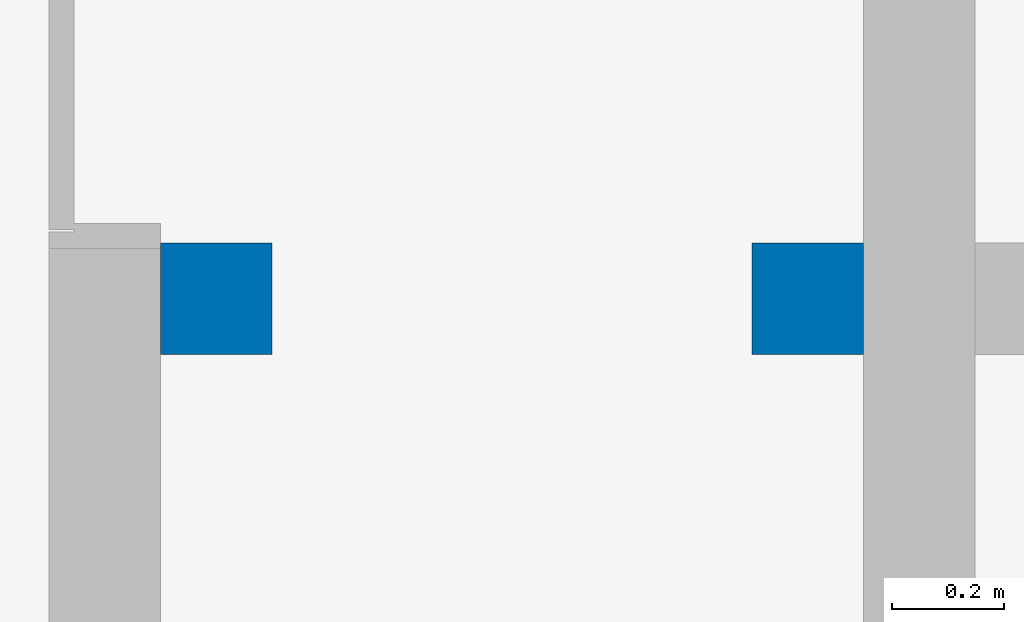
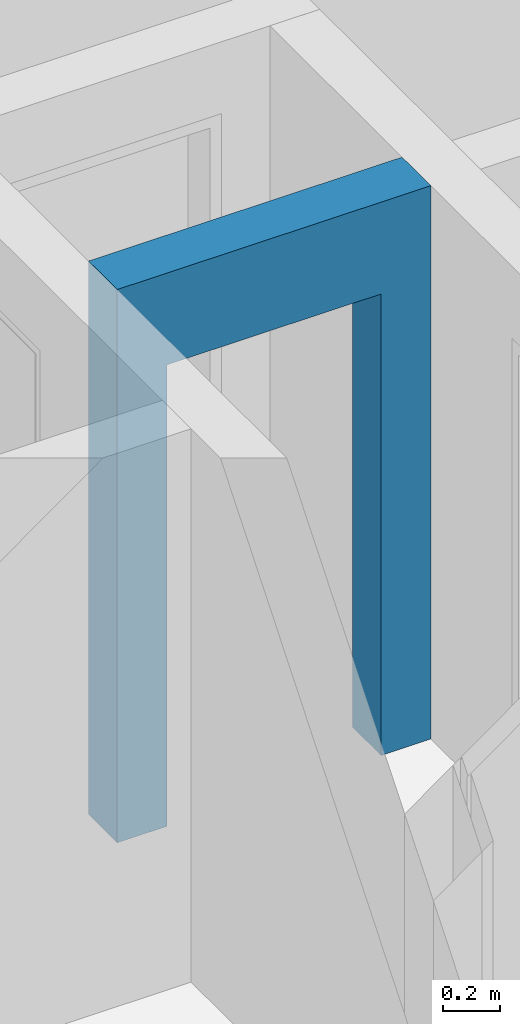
# One storey, part 11 of 22: 1 wall, 2 openings.
"""IFC2X3 building model written with IfcOpenShell, lengths in metres."""

import ifcopenshell
import ifcopenshell.guid

model = None  # the IFC model being written
_history = None  # IfcOwnerHistory: only IFC2X3 demands one
_inside = {}  # id of a spatial element -> (the spatial element, [elements in it])
_under = {}  # id of a project, library or spatial element -> (it, [spatial elements below it])
_declared = {}  # id of a project -> (the project, [libraries it declares])
_typed = {}  # id of a type object -> (the type object, [elements of that type])
_made_of = {}  # id of a material, layer set ... -> (it, [elements and type objects made of it])


def new_model(schema):
    """Start an empty IFC model of exactly this schema.

    Asked for "IFC4X3", IfcOpenShell would pick the latest addendum, in which some entities
    have other attributes; the version numbers below select the first issue.
    IFC2X3 requires an IfcOwnerHistory on every rooted entity: one is made here for all.
    """
    global model, _history
    if schema == "IFC4X3":
        model = ifcopenshell.file(schema_version=(4, 3, 0, 0))
    else:
        model = ifcopenshell.file(schema=schema)
    _inside.clear()
    _under.clear()
    _declared.clear()
    _typed.clear()
    _made_of.clear()
    _history = None
    if model.schema == "IFC2X3":
        org = make("IfcOrganization", Name="unknown")
        user = make(
            "IfcPersonAndOrganization",
            ThePerson=make("IfcPerson", FamilyName="unknown"),
            TheOrganization=org,
        )
        app = make(
            "IfcApplication",
            ApplicationDeveloper=org,
            Version="unknown",
            ApplicationFullName="unknown",
            ApplicationIdentifier="unknown",
        )
        _history = make(
            "IfcOwnerHistory",
            OwningUser=user,
            OwningApplication=app,
            ChangeAction="ADDED",
            CreationDate=0,
        )
    return model


def make(cls, **values):
    """One entity of the class cls with the attributes given. An attribute that is None is left unset."""
    return model.create_entity(
        cls, **{name: value for name, value in values.items() if value is not None}
    )


def entity(cls, *values):
    """Any entity or typed value of the class cls, its attributes in the order of the schema. None: left unset."""
    e = model.create_entity(cls)
    for i, value in enumerate(values):
        if value is not None:
            e[i] = value
    return e


def rooted(cls, **values):
    """An entity with a GlobalId (a new one), such as an element, a storey or a relation."""
    return make(cls, GlobalId=ifcopenshell.guid.new(), OwnerHistory=_history, **values)


def si_unit(unit_type, name, prefix=None):
    """IfcSIUnit, for example si_unit("LENGTHUNIT", "METRE", prefix="MILLI")."""
    return make("IfcSIUnit", UnitType=unit_type, Prefix=prefix, Name=name)


def converted_unit(unit_type, name, factor, base, dimensions=None, offset=None):
    """IfcConversionBasedUnit, such as the inch: factor (a typed value) times the base unit."""
    return make(
        "IfcConversionBasedUnit"
        if offset is None
        else "IfcConversionBasedUnitWithOffset",
        ConversionOffset=offset,
        Dimensions=None
        if dimensions is None
        else entity("IfcDimensionalExponents", *dimensions),
        UnitType=unit_type,
        Name=name,
        ConversionFactor=make(
            "IfcMeasureWithUnit", ValueComponent=factor, UnitComponent=base
        ),
    )


def derived_unit(unit_type, elements):
    """IfcDerivedUnit: a product of units, each with its exponent."""
    return make(
        "IfcDerivedUnit",
        Elements=[
            make("IfcDerivedUnitElement", Unit=unit, Exponent=power)
            for unit, power in elements
        ],
        UnitType=unit_type,
    )


def assignment(units):
    """IfcUnitAssignment: the units of a project."""
    return None if units is None else make("IfcUnitAssignment", Units=units)


def point(xyz):
    """IfcCartesianPoint."""
    return None if xyz is None else make("IfcCartesianPoint", Coordinates=xyz)


def direction(xyz):
    """IfcDirection."""
    return None if xyz is None else make("IfcDirection", DirectionRatios=xyz)


def frame(location, z_axis=None, x_axis=None):
    """IfcAxis2Placement3D, a coordinate frame: its origin and axes. An axis left out is left unset."""
    return make(
        "IfcAxis2Placement3D",
        Location=point(location),
        Axis=direction(z_axis),
        RefDirection=direction(x_axis),
    )


def frame_2d(location, x_axis=None):
    """IfcAxis2Placement2D, a coordinate frame in the plane: its origin and x axis."""
    return make(
        "IfcAxis2Placement2D", Location=point(location), RefDirection=direction(x_axis)
    )


def origin():
    """The frame at (0, 0, 0) with its axes left unset."""
    return frame((0.0, 0.0, 0.0))


def origin_2d_with_axis():
    """The frame at (0, 0) in the plane with the x axis (1, 0) written out."""
    return frame_2d((0.0, 0.0), x_axis=(1.0, 0.0))


def place(relative_to, where):
    """IfcLocalPlacement: puts the frame where relative to a parent placement (None: the world)."""
    return make(
        "IfcLocalPlacement", PlacementRelTo=relative_to, RelativePlacement=where
    )


def context(
    kind, dimensions, precision=None, world=None, true_north=None, identifier=None
):
    """IfcGeometricRepresentationContext, for example the 3D "Model" context."""
    return make(
        "IfcGeometricRepresentationContext",
        ContextIdentifier=identifier,
        ContextType=kind,
        CoordinateSpaceDimension=dimensions,
        Precision=precision,
        WorldCoordinateSystem=world,
        TrueNorth=true_north,
    )


def subcontext(parent, identifier, kind, view, scale=None):
    """IfcGeometricRepresentationSubContext, for example "Body" below "Model"."""
    return make(
        "IfcGeometricRepresentationSubContext",
        ContextIdentifier=identifier,
        ContextType=kind,
        ParentContext=parent,
        TargetScale=scale,
        TargetView=view,
    )


def project(units=None, contexts=None):
    """IfcProject with its units and contexts."""
    return rooted(
        "IfcProject",
        Name="project",
        RepresentationContexts=contexts,
        UnitsInContext=assignment(units),
    )


def spatial(cls, under=None, at=None, **own):
    """A site, building, storey or space (cls), placed at a placement, below another one or the project."""
    s = rooted(cls, ObjectPlacement=at, **own)
    if under is not None:
        _under.setdefault(under.id(), (under, []))[1].append(s)
    return s


def polyline(points):
    """IfcPolyline through the points."""
    return make("IfcPolyline", Points=[point(p) for p in points])


def profile(cls, at=None, kind="AREA", **sizes):
    """A parametric profile (cls). Its sizes go by their IFC names, for example OverallWidth=200.0."""
    return make(cls, ProfileType=kind, Position=at, **sizes)


def rectangle(**sizes):
    """IfcRectangleProfileDef."""
    return profile("IfcRectangleProfileDef", **sizes)


def extrude(swept, where, along, depth):
    """IfcExtrudedAreaSolid: the profile swept, set in the frame where, extruded along a direction by depth."""
    return make(
        "IfcExtrudedAreaSolid",
        SweptArea=swept,
        Position=where,
        ExtrudedDirection=direction(along),
        Depth=depth,
    )


def clip(a, b, op="DIFFERENCE"):
    """IfcBooleanClippingResult: the solid a cut by the half space b."""
    return make(
        "IfcBooleanClippingResult", Operator=op, FirstOperand=a, SecondOperand=b
    )


def bounded_halfspace(plane, agree, where, boundary):
    """IfcPolygonalBoundedHalfSpace: a half space limited to a polygon's prism."""
    return make(
        "IfcPolygonalBoundedHalfSpace",
        BaseSurface=make("IfcPlane", Position=plane),
        AgreementFlag=agree,
        Position=where,
        PolygonalBoundary=boundary,
    )


def shape(context_of_items, identifier, shape_type, items):
    """IfcShapeRepresentation: the items that make up one representation, for example the "Body"."""
    return make(
        "IfcShapeRepresentation",
        ContextOfItems=context_of_items,
        RepresentationIdentifier=identifier,
        RepresentationType=shape_type,
        Items=items,
    )


def material(Name=None, Category=None):
    """IfcMaterial."""
    return make("IfcMaterial", Name=Name, Category=Category)


def layer(
    of_material, thickness, ventilated=None, Name=None, Category=None, Priority=None
):
    """IfcMaterialLayer: one layer of a wall or slab, of a material (None: an air gap)."""
    return make(
        "IfcMaterialLayer",
        Material=of_material,
        LayerThickness=thickness,
        IsVentilated=ventilated,
        Name=Name,
        Category=Category,
        Priority=Priority,
    )


def layer_set(layers, Name=None):
    """IfcMaterialLayerSet."""
    return make("IfcMaterialLayerSet", MaterialLayers=layers, LayerSetName=Name)


def layer_usage(for_layer_set, set_direction, sense, offset, extent=None):
    """IfcMaterialLayerSetUsage: how a layer set lies in its element."""
    return make(
        "IfcMaterialLayerSetUsage",
        ForLayerSet=for_layer_set,
        LayerSetDirection=set_direction,
        DirectionSense=sense,
        OffsetFromReferenceLine=offset,
        ReferenceExtent=extent,
    )


def made_of(thing, what):
    """Note that an element or type object is made of a material, layer set ...; save() writes the relation."""
    if what is not None:
        _made_of.setdefault(what.id(), (what, []))[1].append(thing)
    return thing


def type_object(cls, material=None, **own):
    """A type object (cls), such as IfcWallType, which elements share."""
    return made_of(rooted(cls, **own), material)


def element(
    cls,
    number,
    at=None,
    inside=None,
    cuts=None,
    type_object=None,
    material=None,
    context=None,
    identifier="Body",
    shape_type=None,
    held_by="IfcProductDefinitionShape",
    body=None,
    shapes=None,
    **own,
):
    """One element of the class cls, such as IfcWall. Its Tag is "e" and its number.

    at: its placement. inside: the storey or other place that contains it. cuts: it is an
    opening in that element (IfcRelVoidsElement). A single representation is given by context,
    identifier, shape_type and body (its items); several are given by shapes. held_by: the class
    of the entity that holds the representations. save() writes the other relations.
    """
    e = rooted(cls, Tag="e%d" % number, ObjectPlacement=at, **own)
    if body is not None:
        shapes = [shape(context, identifier, shape_type, body)]
    if shapes is not None:
        e.Representation = make(held_by, Representations=shapes)
    if inside is not None:
        _inside.setdefault(inside.id(), (inside, []))[1].append(e)
    if cuts is not None:
        rooted(
            "IfcRelVoidsElement", RelatingBuildingElement=cuts, RelatedOpeningElement=e
        )
    if type_object is not None:
        _typed.setdefault(type_object.id(), (type_object, []))[1].append(e)
    return made_of(e, material)


def aggregate(whole, parts):
    """IfcRelAggregates: a whole, such as a stair, and the parts it consists of."""
    return rooted("IfcRelAggregates", RelatingObject=whole, RelatedObjects=parts)


def save(model, path):
    """Write the relations noted so far, then the file.

    IfcRelAggregates (storeys below a building ...), IfcRelContainedInSpatialStructure (elements
    in a storey), IfcRelDefinesByType, IfcRelAssociatesMaterial and IfcRelDeclares: one each for
    every whole, place, type object, material and project.
    """
    for whole, parts in _under.values():
        aggregate(whole, parts)
    for where, things in _inside.values():
        rooted(
            "IfcRelContainedInSpatialStructure",
            RelatedElements=things,
            RelatingStructure=where,
        )
    for kind, things in _typed.values():
        rooted("IfcRelDefinesByType", RelatedObjects=things, RelatingType=kind)
    for what, things in _made_of.values():
        rooted("IfcRelAssociatesMaterial", RelatedObjects=things, RelatingMaterial=what)
    for by, libraries in _declared.values():
        rooted("IfcRelDeclares", RelatingContext=by, RelatedDefinitions=libraries)
    model.write(path)


model = new_model("IFC2X3")

# Units and contexts
model_context = context("Model", 3, precision=1e-05, world=origin(), true_north=direction((6.123233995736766e-17, 1.0)))
body_context = subcontext(model_context, "Body", "Model", "MODEL_VIEW")
ifc_project = project(units=[si_unit("LENGTHUNIT", "METRE"), si_unit("AREAUNIT", "SQUARE_METRE"), si_unit("VOLUMEUNIT", "CUBIC_METRE"), si_unit("POWERUNIT", "WATT"), derived_unit("USERDEFINED", [(si_unit("MASSUNIT", "GRAM", prefix="KILO"), 1), (si_unit("TIMEUNIT", "SECOND"), -3)]), derived_unit("THERMALRESISTANCEUNIT", [(si_unit("MASSUNIT", "GRAM", prefix="KILO"), -1), (si_unit("TIMEUNIT", "SECOND"), 3), (si_unit("THERMODYNAMICTEMPERATUREUNIT", "KELVIN"), 1)]), derived_unit("USERDEFINED", [(si_unit("MASSUNIT", "GRAM", prefix="KILO"), 1), (si_unit("TIMEUNIT", "SECOND"), -2), (si_unit("THERMODYNAMICTEMPERATUREUNIT", "KELVIN"), -1)]), derived_unit("THERMALTRANSMITTANCEUNIT", [(si_unit("MASSUNIT", "GRAM", prefix="KILO"), 1), (si_unit("TIMEUNIT", "SECOND"), -3), (si_unit("THERMODYNAMICTEMPERATUREUNIT", "KELVIN"), -1)]), converted_unit("PLANEANGLEUNIT", "DEGREE", entity("IfcPlaneAngleMeasure", 0.017453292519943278), si_unit("PLANEANGLEUNIT", "RADIAN"), dimensions=[0, 0, 0, 0, 0, 0, 0]), derived_unit("MOMENTOFINERTIAUNIT", [(si_unit("LENGTHUNIT", "METRE"), 4)])], contexts=[model_context])

# Site, building, storey
site_placement = place(None, origin())
site = spatial("IfcSite", under=ifc_project, at=site_placement, Name="Default", CompositionType="ELEMENT")
building_placement = place(site_placement, origin())
building = spatial("IfcBuilding", under=site, at=building_placement, CompositionType="ELEMENT")
storey_placement = place(building_placement, origin())
storey = spatial("IfcBuildingStorey", under=building, at=storey_placement, Name="Untergeschoss", CompositionType="ELEMENT", Elevation=0.0)

# Wall, openings
ifc_material = material(Name="Mauerwerk - Ziegel")
ifc_layer = layer(ifc_material, 0.2)
ifc_layer_set = layer_set([ifc_layer], Name="Basiswand:Ziegel 200")
ifc_layer_usage = layer_usage(ifc_layer_set, "AXIS2", "NEGATIVE", 0.1)
wall_type = type_object("IfcWallType", Name="Basiswand:Ziegel 200", PredefinedType="STANDARD", material=ifc_layer_set)
wall_placement = place(storey_placement, frame((34.18375489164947, 25.382272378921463, 0.0)))
wall = element("IfcWallStandardCase", 1, at=wall_placement, inside=storey, type_object=wall_type, material=ifc_layer_usage, Name="Basiswand:Ziegel 200", ObjectType="Basiswand:Ziegel 200", context=body_context, shape_type="Clipping", body=[
    clip(extrude(rectangle(XDim=1.2599999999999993, YDim=0.20000000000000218, at=frame_2d((0.6299999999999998, -2.1649348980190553e-15), x_axis=(1.0, 0.0))), origin(), (0.0, 0.0, 1.0), 2.35), bounded_halfspace(frame((0.0, -0.10000000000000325, 2.35), z_axis=(0.0, 0.0, -1.0), x_axis=(1.0, 0.0, 0.0)), True, frame((0.0, -0.10000000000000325, 2.35)), polyline([(0.0, 0.0), (1.2599999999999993, 0.0), (1.2599999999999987, 0.20000000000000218), (0.0, 0.20000000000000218), (0.0, 0.0)]))),
])
opening_1_placement = place(wall_placement, frame((0.19999999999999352, -0.10000000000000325, 0.0)))
element("IfcOpeningElement", 2, at=opening_1_placement, cuts=wall, Name="Basiswand:Ziegel 200", ObjectType="Opening", context=body_context, shape_type="SweptSolid", body=[
    extrude(rectangle(XDim=1.96, YDim=0.8600000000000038, at=origin_2d_with_axis()), frame((0.43000000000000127, 0.0, 0.98), z_axis=(0.0, 1.0, 0.0), x_axis=(0.0, 0.0, -1.0)), (0.0, 0.0, 1.0), 0.19999999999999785),
])
opening_2_placement = place(wall_placement, frame((-34.183754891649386, -25.38227237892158, 2.6)))
element("IfcOpeningElement", 3, at=opening_2_placement, cuts=wall, Name="Basiswand:Ziegel 200", ObjectType="Opening", context=body_context, shape_type="SweptSolid", body=[
    extrude(rectangle(XDim=2.2249999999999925, YDim=0.8899999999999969, at=frame_2d((0.0, -4.440892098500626e-16), x_axis=(0.0, 1.0))), frame((34.95875489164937, 23.758272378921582, 0.93249999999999), z_axis=(0.0, 1.0, 0.0), x_axis=(1.0, 0.0, 0.0)), (0.0, 0.0, 1.0), 3.048),
])

save(model, "model.ifc")
